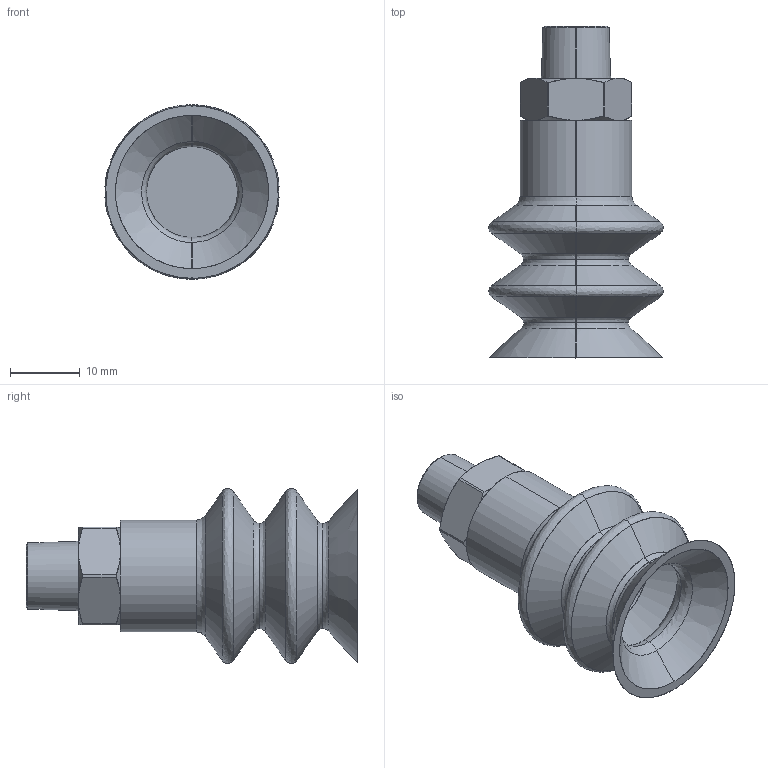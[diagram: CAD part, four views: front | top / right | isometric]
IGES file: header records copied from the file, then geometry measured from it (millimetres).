
Start section: SolidWorks IGES file using analytic representation for surfaces
Global section: file name: E:\eins\20070625石神\シュマルツ\SFSGシリーズ\183898.IGS; native system: SolidWorks 2006 by SolidWorks Corporation; preprocessor: SolidWorks 2006 by SolidWorks Corporation; author: CAD54; date: 070625.174638; units: millimetre
Bounding box: 24.94 x 47.5 x 24.99 mm (x, y, z)
Surface area: 6455.5 mm2 (no closed solid volume)
Topology: 0 solids, 0 shells, 84 faces, 796 edges, 796 vertices
Faces by surface type: revolution 44, bspline 40
